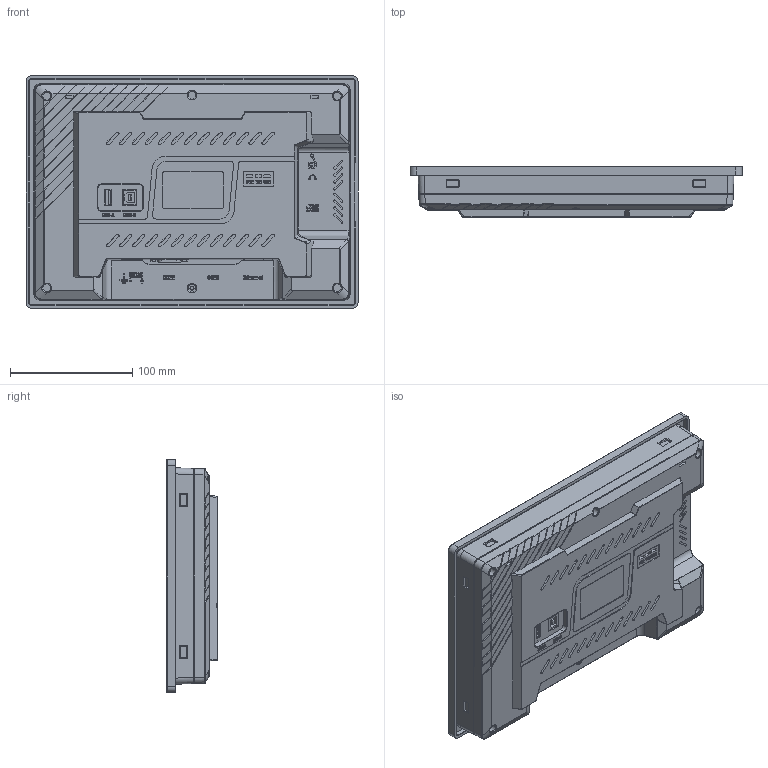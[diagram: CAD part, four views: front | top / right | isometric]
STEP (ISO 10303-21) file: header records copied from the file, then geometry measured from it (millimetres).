
FILE_DESCRIPTION((''),'2;1');
FILE_NAME('PI3102I-3D','2020-02-14T15:23:17',('Administrator'),(''),'CREO PARAMETRIC BY PTC INC, 2018050','CREO PARAMETRIC BY PTC INC, 2018050','');
FILE_SCHEMA(('CONFIG_CONTROL_DESIGN'));
Products named in the file (1): PI3102I-3D
Bounding box: 272 x 41.4 x 191 mm (x, y, z)
Volume: 1455304.4 mm3; surface area: 261297 mm2
Topology: 1 solids, 52 shells, 4093 faces, 11348 edges, 7392 vertices
Faces by surface type: plane 2363, cylinder 930, extrusion 345, bspline 281, torus 119, cone 45, sphere 10
Entity records: 153572 total; most frequent: CARTESIAN_POINT 52453, ORIENTED_EDGE 22676, DIRECTION 18220, EDGE_CURVE 11338, VECTOR 7842, LINE 7497, VERTEX_POINT 7392, AXIS2_PLACEMENT_3D 5189
